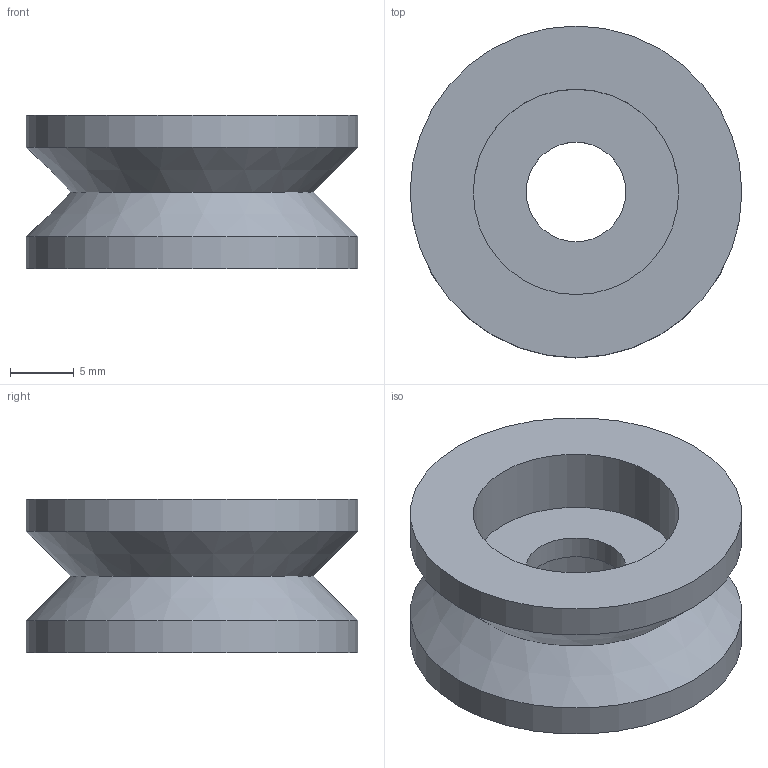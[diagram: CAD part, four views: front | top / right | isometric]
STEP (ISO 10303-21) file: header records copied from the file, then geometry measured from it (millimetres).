
FILE_DESCRIPTION(('Open CASCADE Model'),'2;1');
FILE_NAME('Open CASCADE Shape Model','2026-10-21T12:04:46',('Author'),( 'Open CASCADE'),'Open CASCADE STEP processor 7.9','Open CASCADE 7.9' ,'Unknown');
FILE_SCHEMA(('AUTOMOTIVE_DESIGN { 1 0 10303 214 1 1 1 1 }'));
Length unit declared in the file: millimetre
Products named in the file (1): Open CASCADE STEP translator 7.9 8
Bounding box: 26 x 26 x 12 mm (x, y, z)
Volume: 3299.4 mm3; surface area: 2634.2 mm2
Topology: 1 solids, 1 shells, 11 faces, 18 edges, 11 vertices
Faces by surface type: cylinder 5, plane 4, cone 2
Full cylindrical faces by diameter (mm): 7.8 x1, 16.1 x2, 26 x2
Entity records: 519 total; most frequent: CARTESIAN_POINT 101, DIRECTION 85, ORIENTED_EDGE 36, PCURVE 36, DEFINITIONAL_REPRESENTATION 36, LINE 35, VECTOR 35, AXIS2_PLACEMENT_3D 23
